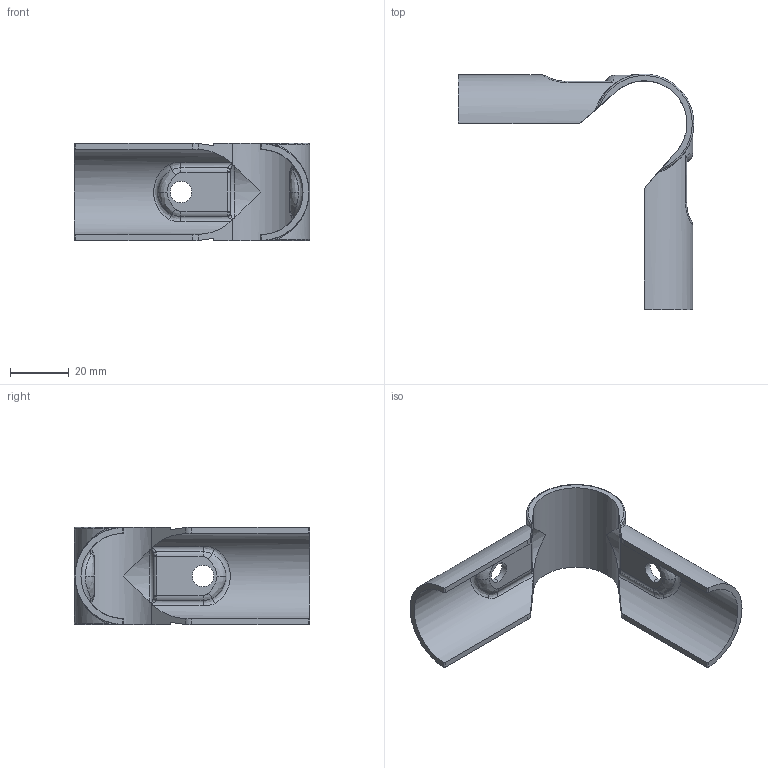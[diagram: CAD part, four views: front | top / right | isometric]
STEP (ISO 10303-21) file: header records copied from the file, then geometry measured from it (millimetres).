
FILE_DESCRIPTION (( 'STEP AP203' ), '1' );
FILE_NAME ('015.100.003.STEP', '2016-10-24T07:26:32', ( '' ), ( '' ), 'SwSTEP 2.0', 'SolidWorks 2016', '' );
FILE_SCHEMA (( 'CONFIG_CONTROL_DESIGN' ));
Length unit declared in the file: millimetre
Products named in the file (1): 015.100.003
Bounding box: 80 x 79.99 x 33 mm (x, y, z)
Volume: 14426 mm3; surface area: 14015.8 mm2
Topology: 1 solids, 1 shells, 114 faces, 296 edges, 186 vertices
Faces by surface type: cylinder 42, bspline 38, plane 20, torus 14
Entity records: 6323 total; most frequent: CARTESIAN_POINT 3809, ORIENTED_EDGE 592, DIRECTION 410, EDGE_CURVE 296, VERTEX_POINT 186, AXIS2_PLACEMENT_3D 171, EDGE_LOOP 120, FACE_OUTER_BOUND 114
